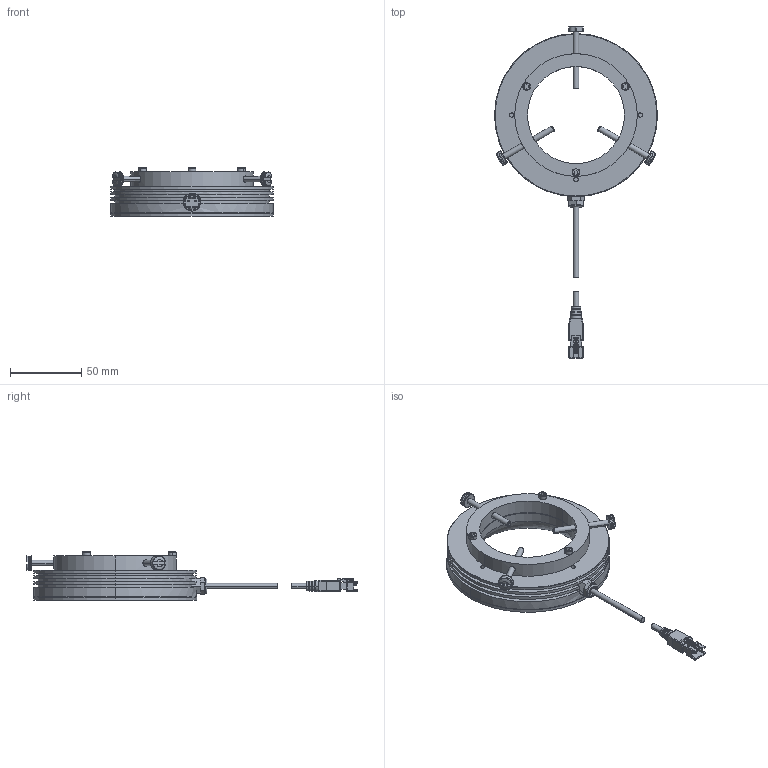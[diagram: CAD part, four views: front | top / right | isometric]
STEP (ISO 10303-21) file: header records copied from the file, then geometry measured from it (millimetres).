
FILE_DESCRIPTION(('STEP AP214'),'1');
FILE_NAME(').stp','2022-12-09T06:55:09',(' '),(' '),'Spatial InterOp 3D',' ',' ');
FILE_SCHEMA(('AUTOMOTIVE_DESIGN { 1 0 10303 214 1 1 1 1 }'));
Length unit declared in the file: metre
Products named in the file (3): VL-MUL110(LRS取付アダプタ付); Component1; Component2
Assembly tree (2 placements, depth 2):
  VL-MUL110(LRS取付アダプタ付)
    Component1
    Component2
Bounding box: 114.2 x 232.6 x 33.9 mm (x, y, z)
Volume: 127021.1 mm3; surface area: 56273.5 mm2
Topology: 2 solids, 2 shells, 838 faces, 2071 edges, 1274 vertices
Faces by surface type: plane 379, cylinder 377, cone 32, torus 30, bspline 12, sphere 8
Entity records: 28779 total; most frequent: CARTESIAN_POINT 8287, DIRECTION 4621, ORIENTED_EDGE 4126, EDGE_CURVE 2063, AXIS2_PLACEMENT_3D 1799, VERTEX_POINT 1274, LINE 1023, VECTOR 1023
